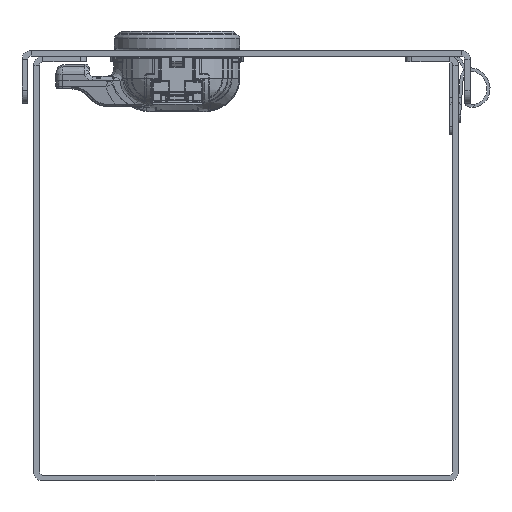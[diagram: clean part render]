
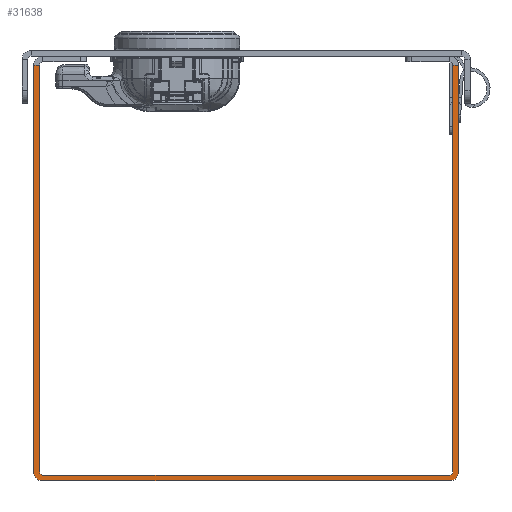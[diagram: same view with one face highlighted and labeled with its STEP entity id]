
A CAD part, front view. The second image highlights one B-rep face of the part: STEP entity #31638.
In plain terms, the highlighted planar face has unit normal (0, -1, 0).
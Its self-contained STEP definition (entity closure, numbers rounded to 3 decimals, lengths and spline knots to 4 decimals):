
#2507=FACE_OUTER_BOUND('',#4453,.T.);
#4453=EDGE_LOOP('',(#22238,#22239,#22240,#22241,#22242,#22243,#22244,#22245,
#22246,#22247,#22248,#22249));
#6418=LINE('',#45312,#9177);
#6777=LINE('',#46353,#9536);
#6784=LINE('',#46375,#9543);
#6791=LINE('',#46399,#9550);
#6793=LINE('',#46405,#9552);
#6794=LINE('',#46408,#9553);
#6795=LINE('',#46410,#9554);
#6796=LINE('',#46414,#9555);
#9177=VECTOR('',#36741,0.3937);
#9536=VECTOR('',#37782,0.3937);
#9543=VECTOR('',#37809,0.3937);
#9550=VECTOR('',#37834,0.3937);
#9552=VECTOR('',#37840,0.3937);
#9553=VECTOR('',#37843,0.3937);
#9554=VECTOR('',#37844,0.3937);
#9555=VECTOR('',#37847,0.3937);
#11963=CIRCLE('',#33950,0.031);
#11964=CIRCLE('',#33951,0.031);
#11965=CIRCLE('',#33952,0.086);
#11966=CIRCLE('',#33953,0.086);
#13149=VERTEX_POINT('',#45309);
#13150=VERTEX_POINT('',#45311);
#13491=VERTEX_POINT('',#46348);
#13494=VERTEX_POINT('',#46363);
#13496=VERTEX_POINT('',#46374);
#13504=VERTEX_POINT('',#46398);
#13505=VERTEX_POINT('',#46402);
#13506=VERTEX_POINT('',#46404);
#13507=VERTEX_POINT('',#46406);
#13508=VERTEX_POINT('',#46409);
#13509=VERTEX_POINT('',#46411);
#13510=VERTEX_POINT('',#46413);
#16230=EDGE_CURVE('',#13150,#13149,#6418,.T.);
#16754=EDGE_CURVE('',#13491,#13150,#6777,.T.);
#16764=EDGE_CURVE('',#13496,#13494,#6784,.T.);
#16776=EDGE_CURVE('',#13491,#13504,#6791,.T.);
#16778=EDGE_CURVE('',#13505,#13149,#11963,.T.);
#16779=EDGE_CURVE('',#13505,#13506,#6793,.T.);
#16780=EDGE_CURVE('',#13506,#13507,#11964,.T.);
#16781=EDGE_CURVE('',#13507,#13496,#6794,.T.);
#16782=EDGE_CURVE('',#13508,#13494,#6795,.T.);
#16783=EDGE_CURVE('',#13509,#13508,#11965,.T.);
#16784=EDGE_CURVE('',#13510,#13509,#6796,.T.);
#16785=EDGE_CURVE('',#13510,#13504,#11966,.T.);
#22238=ORIENTED_EDGE('',*,*,#16754,.T.);
#22239=ORIENTED_EDGE('',*,*,#16230,.T.);
#22240=ORIENTED_EDGE('',*,*,#16778,.F.);
#22241=ORIENTED_EDGE('',*,*,#16779,.T.);
#22242=ORIENTED_EDGE('',*,*,#16780,.T.);
#22243=ORIENTED_EDGE('',*,*,#16781,.T.);
#22244=ORIENTED_EDGE('',*,*,#16764,.T.);
#22245=ORIENTED_EDGE('',*,*,#16782,.F.);
#22246=ORIENTED_EDGE('',*,*,#16783,.F.);
#22247=ORIENTED_EDGE('',*,*,#16784,.F.);
#22248=ORIENTED_EDGE('',*,*,#16785,.T.);
#22249=ORIENTED_EDGE('',*,*,#16776,.F.);
#30767=PLANE('',#33949);
#31638=ADVANCED_FACE('',(#2507),#30767,.T.);
#33949=AXIS2_PLACEMENT_3D('',#46401,#37836,#37837);
#33950=AXIS2_PLACEMENT_3D('',#46403,#37838,#37839);
#33951=AXIS2_PLACEMENT_3D('',#46407,#37841,#37842);
#33952=AXIS2_PLACEMENT_3D('',#46412,#37845,#37846);
#33953=AXIS2_PLACEMENT_3D('',#46415,#37848,#37849);
#36741=DIRECTION('',(0.,0.,-1.));
#37782=DIRECTION('',(-1.,0.,0.));
#37809=DIRECTION('',(-1.,0.,0.));
#37834=DIRECTION('',(0.,0.,-1.));
#37836=DIRECTION('center_axis',(0.,-1.,0.));
#37837=DIRECTION('ref_axis',(0.,0.,-1.));
#37838=DIRECTION('center_axis',(0.,-1.,0.));
#37839=DIRECTION('ref_axis',(0.,0.,-1.));
#37840=DIRECTION('',(-1.,0.,0.));
#37841=DIRECTION('center_axis',(0.,1.,0.));
#37842=DIRECTION('ref_axis',(0.,0.,-1.));
#37843=DIRECTION('',(0.,0.,1.));
#37844=DIRECTION('',(0.,0.,1.));
#37845=DIRECTION('center_axis',(0.,1.,0.));
#37846=DIRECTION('ref_axis',(0.,0.,-1.));
#37847=DIRECTION('',(-1.,0.,0.));
#37848=DIRECTION('center_axis',(0.,-1.,0.));
#37849=DIRECTION('ref_axis',(0.,0.,-1.));
#45309=CARTESIAN_POINT('',(1.945,-24.,0.086));
#45311=CARTESIAN_POINT('',(1.945,-24.,3.914));
#45312=CARTESIAN_POINT('',(1.945,-24.,4.));
#46348=CARTESIAN_POINT('',(2.,-24.,3.914));
#46353=CARTESIAN_POINT('',(-0.0275,-24.,3.914));
#46363=CARTESIAN_POINT('',(-2.,-24.,3.914));
#46374=CARTESIAN_POINT('',(-1.945,-24.,3.914));
#46375=CARTESIAN_POINT('',(-1.9725,-24.,3.914));
#46398=CARTESIAN_POINT('',(2.,-24.,0.086));
#46399=CARTESIAN_POINT('',(2.,-24.,4.));
#46401=CARTESIAN_POINT('Origin',(-2.,-24.,0.));
#46402=CARTESIAN_POINT('',(1.914,-24.,0.055));
#46403=CARTESIAN_POINT('Origin',(1.914,-24.,0.086));
#46404=CARTESIAN_POINT('',(-1.914,-24.,0.055));
#46405=CARTESIAN_POINT('',(2.,-24.,0.055));
#46406=CARTESIAN_POINT('',(-1.945,-24.,0.086));
#46407=CARTESIAN_POINT('Origin',(-1.914,-24.,0.086));
#46408=CARTESIAN_POINT('',(-1.945,-24.,0.));
#46409=CARTESIAN_POINT('',(-2.,-24.,0.086));
#46410=CARTESIAN_POINT('',(-2.,-24.,0.));
#46411=CARTESIAN_POINT('',(-1.914,-24.,0.));
#46412=CARTESIAN_POINT('Origin',(-1.914,-24.,0.086));
#46413=CARTESIAN_POINT('',(1.914,-24.,0.));
#46414=CARTESIAN_POINT('',(2.,-24.,0.));
#46415=CARTESIAN_POINT('Origin',(1.914,-24.,0.086));
